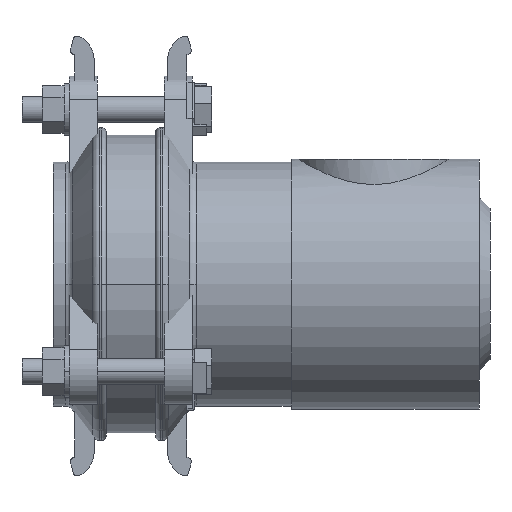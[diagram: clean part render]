
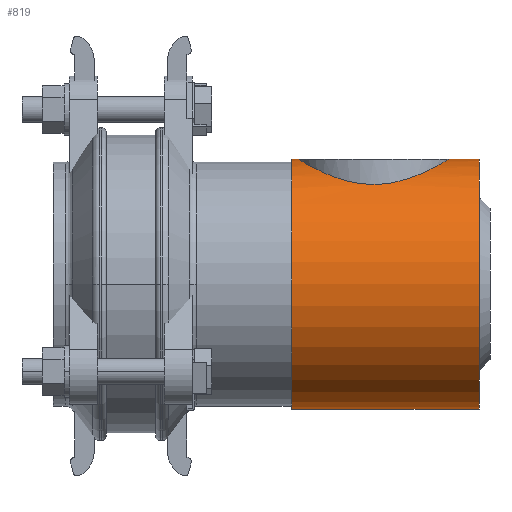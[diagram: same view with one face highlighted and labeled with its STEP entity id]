
A CAD part, front view. The second image highlights one B-rep face of the part: STEP entity #819.
In plain terms, the highlighted cylindrical face has radius 58 mm (diameter 116 mm), a partial arc.
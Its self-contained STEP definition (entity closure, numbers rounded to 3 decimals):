
#819=ADVANCED_FACE('',(#1650),#1651,.T.);
#1650=FACE_OUTER_BOUND('',#2747,.T.);
#1651=CYLINDRICAL_SURFACE('',#2748,58.0);
#2747=EDGE_LOOP('',(#4038,#4039,#4040,#4041,#4042,#4043));
#2748=AXIS2_PLACEMENT_3D('',#4044,#4045,#4046);
#4038=ORIENTED_EDGE('',*,*,#6212,.T.);
#4039=ORIENTED_EDGE('',*,*,#6213,.T.);
#4040=ORIENTED_EDGE('',*,*,#6214,.T.);
#4041=ORIENTED_EDGE('',*,*,#6215,.T.);
#4042=ORIENTED_EDGE('',*,*,#6216,.T.);
#4043=ORIENTED_EDGE('',*,*,#6217,.T.);
#4044=CARTESIAN_POINT('',(7.5,0.0,0.));
#4045=DIRECTION('',(1.0,0.0,0.));
#4046=DIRECTION('',(0.,0.0,-1.0));
#6212=EDGE_CURVE('',#7400,#7401,#7402,.T.);
#6213=EDGE_CURVE('',#7401,#7403,#7404,.T.);
#6214=EDGE_CURVE('',#7403,#7405,#7406,.T.);
#6215=EDGE_CURVE('',#7405,#7407,#7408,.T.);
#6216=EDGE_CURVE('',#7407,#7409,#7410,.T.);
#6217=EDGE_CURVE('',#7409,#7400,#7411,.T.);
#7400=VERTEX_POINT('',#8993);
#7401=VERTEX_POINT('',#8994);
#7402=LINE('',#8995,#8996);
#7403=VERTEX_POINT('',#8997);
#7404=CIRCLE('',#8998,58.0);
#7405=VERTEX_POINT('',#8999);
#7406=LINE('',#9000,#9001);
#7407=VERTEX_POINT('',#9002);
#7408=B_SPLINE_CURVE_WITH_KNOTS('',3,(#9003,#9004,#9005,#9006,#9007,#9008,#9009,#9010,#9011,#9012,#9013,#9014,#9015,#9016,#9017,#9018,#9019,#9020,#9021,#9022,#9023,#9024,#9025,#9026,#9027,#9028,#9029,#9030,#9031,#9032,#9033,#9034,#9035,#9036,#9037,#9038,#9039,#9040,#9041,#9042,#9043,#9044,#9045,#9046,#9047,#9048,#9049,#9050,#9051,#9052,#9053,#9054,#9055,#9056,#9057,#9058,#9059,#9060,#9061,#9062,#9063,#9064,#9065,#9066,#9067,#9068),.UNSPECIFIED.,.F.,.F.,(4,2,2,2,2,2,2,2,2,2,2,2,2,2,2,2,2,2,2,2,2,2,2,2,2,2,2,2,2,2,2,2,4),(54.429,57.82,61.21,64.601,67.991,71.382,74.772,78.163,81.553,84.967,88.38,91.793,95.206,98.619,102.032,105.446,108.859,112.272,115.685,119.098,122.511,125.925,129.338,132.751,136.164,139.555,142.945,146.336,149.726,153.117,156.507,159.898,163.288),.UNSPECIFIED.);
#7409=VERTEX_POINT('',#9069);
#7410=LINE('',#9070,#9071);
#7411=CIRCLE('',#9072,58.0);
#8993=CARTESIAN_POINT('',(7.5,0.0,-58.0));
#8994=CARTESIAN_POINT('',(94.5,0.0,-58.0));
#8995=CARTESIAN_POINT('',(7.5,0.,-58.0));
#8996=VECTOR('',#10661,1.0);
#8997=CARTESIAN_POINT('',(94.5,0.,58.0));
#8998=AXIS2_PLACEMENT_3D('',#10662,#10663,#10664);
#8999=CARTESIAN_POINT('',(80.5,0.,58.0));
#9000=CARTESIAN_POINT('',(7.5,0.,58.0));
#9001=VECTOR('',#10665,1.0);
#9002=CARTESIAN_POINT('',(10.5,0.0,58.0));
#9003=CARTESIAN_POINT('',(80.5,0.,58.0));
#9004=CARTESIAN_POINT('',(80.5,-1.13,58.0));
#9005=CARTESIAN_POINT('',(80.445,-2.275,57.967));
#9006=CARTESIAN_POINT('',(80.219,-4.572,57.831));
#9007=CARTESIAN_POINT('',(80.049,-5.724,57.728));
#9008=CARTESIAN_POINT('',(79.591,-8.012,57.456));
#9009=CARTESIAN_POINT('',(79.304,-9.148,57.285));
#9010=CARTESIAN_POINT('',(78.617,-11.386,56.883));
#9011=CARTESIAN_POINT('',(78.217,-12.488,56.651));
#9012=CARTESIAN_POINT('',(77.314,-14.636,56.134));
#9013=CARTESIAN_POINT('',(76.81,-15.685,55.849));
#9014=CARTESIAN_POINT('',(75.708,-17.714,55.239));
#9015=CARTESIAN_POINT('',(75.111,-18.695,54.914));
#9016=CARTESIAN_POINT('',(73.836,-20.575,54.237));
#9017=CARTESIAN_POINT('',(73.16,-21.475,53.886));
#9018=CARTESIAN_POINT('',(71.745,-23.183,53.173));
#9019=CARTESIAN_POINT('',(71.007,-23.991,52.812));
#9020=CARTESIAN_POINT('',(69.486,-25.512,52.095));
#9021=CARTESIAN_POINT('',(68.674,-26.253,51.725));
#9022=CARTESIAN_POINT('',(66.961,-27.671,50.98));
#9023=CARTESIAN_POINT('',(66.06,-28.347,50.606));
#9024=CARTESIAN_POINT('',(64.18,-29.62,49.872));
#9025=CARTESIAN_POINT('',(63.201,-30.216,49.512));
#9026=CARTESIAN_POINT('',(61.177,-31.314,48.825));
#9027=CARTESIAN_POINT('',(60.132,-31.816,48.498));
#9028=CARTESIAN_POINT('',(57.991,-32.716,47.895));
#9029=CARTESIAN_POINT('',(56.894,-33.114,47.62));
#9030=CARTESIAN_POINT('',(54.662,-33.8,47.136));
#9031=CARTESIAN_POINT('',(53.528,-34.087,46.927));
#9032=CARTESIAN_POINT('',(51.242,-34.545,46.591));
#9033=CARTESIAN_POINT('',(50.09,-34.717,46.462));
#9034=CARTESIAN_POINT('',(47.788,-34.944,46.292));
#9035=CARTESIAN_POINT('',(46.638,-35.0,46.249));
#9036=CARTESIAN_POINT('',(44.362,-35.0,46.249));
#9037=CARTESIAN_POINT('',(43.212,-34.944,46.292));
#9038=CARTESIAN_POINT('',(40.91,-34.717,46.462));
#9039=CARTESIAN_POINT('',(39.758,-34.545,46.591));
#9040=CARTESIAN_POINT('',(37.472,-34.087,46.927));
#9041=CARTESIAN_POINT('',(36.338,-33.8,47.136));
#9042=CARTESIAN_POINT('',(34.106,-33.114,47.62));
#9043=CARTESIAN_POINT('',(33.009,-32.716,47.895));
#9044=CARTESIAN_POINT('',(30.868,-31.816,48.498));
#9045=CARTESIAN_POINT('',(29.823,-31.314,48.825));
#9046=CARTESIAN_POINT('',(27.799,-30.216,49.512));
#9047=CARTESIAN_POINT('',(26.82,-29.62,49.872));
#9048=CARTESIAN_POINT('',(24.94,-28.347,50.606));
#9049=CARTESIAN_POINT('',(24.039,-27.671,50.98));
#9050=CARTESIAN_POINT('',(22.326,-26.253,51.725));
#9051=CARTESIAN_POINT('',(21.514,-25.512,52.095));
#9052=CARTESIAN_POINT('',(19.993,-23.991,52.812));
#9053=CARTESIAN_POINT('',(19.255,-23.183,53.173));
#9054=CARTESIAN_POINT('',(17.84,-21.475,53.886));
#9055=CARTESIAN_POINT('',(17.164,-20.575,54.237));
#9056=CARTESIAN_POINT('',(15.889,-18.695,54.914));
#9057=CARTESIAN_POINT('',(15.292,-17.714,55.239));
#9058=CARTESIAN_POINT('',(14.19,-15.685,55.849));
#9059=CARTESIAN_POINT('',(13.686,-14.636,56.134));
#9060=CARTESIAN_POINT('',(12.783,-12.488,56.651));
#9061=CARTESIAN_POINT('',(12.383,-11.386,56.883));
#9062=CARTESIAN_POINT('',(11.696,-9.148,57.285));
#9063=CARTESIAN_POINT('',(11.409,-8.012,57.456));
#9064=CARTESIAN_POINT('',(10.951,-5.724,57.728));
#9065=CARTESIAN_POINT('',(10.781,-4.572,57.831));
#9066=CARTESIAN_POINT('',(10.555,-2.275,57.967));
#9067=CARTESIAN_POINT('',(10.5,-1.13,58.0));
#9068=CARTESIAN_POINT('',(10.5,0.0,58.0));
#9069=CARTESIAN_POINT('',(7.5,0.,58.0));
#9070=CARTESIAN_POINT('',(7.5,0.,58.0));
#9071=VECTOR('',#10666,1.0);
#9072=AXIS2_PLACEMENT_3D('',#10667,#10668,#10669);
#10661=DIRECTION('',(1.0,0.0,0.));
#10662=CARTESIAN_POINT('',(94.5,0.0,0.));
#10663=DIRECTION('',(-1.0,-0.0,0.));
#10664=DIRECTION('',(0.,0.0,-1.0));
#10665=DIRECTION('',(-1.0,-0.0,0.));
#10666=DIRECTION('',(-1.0,-0.0,0.));
#10667=CARTESIAN_POINT('',(7.5,0.0,0.));
#10668=DIRECTION('',(1.0,0.0,0.));
#10669=DIRECTION('',(0.,0.0,-1.0));
